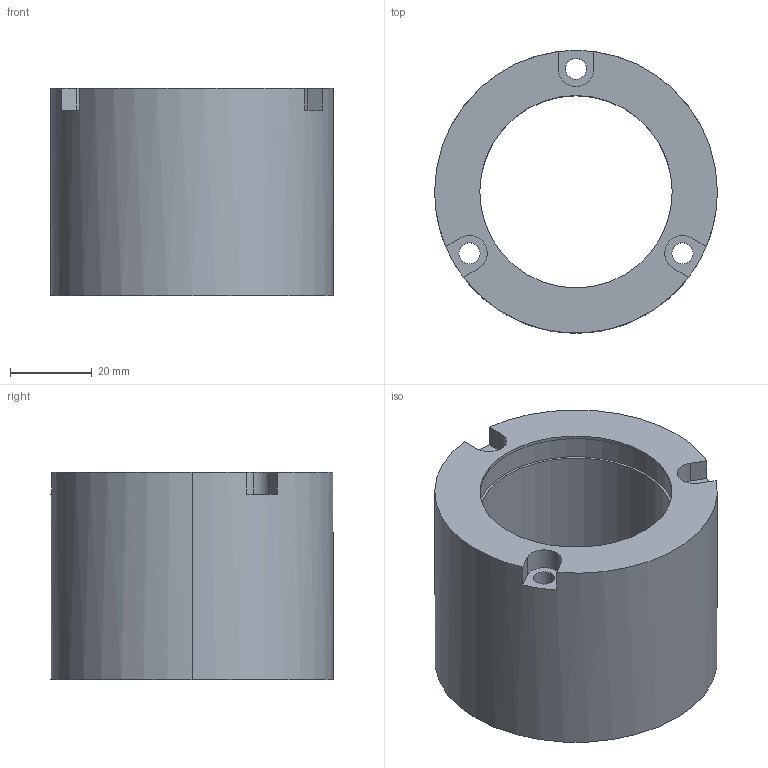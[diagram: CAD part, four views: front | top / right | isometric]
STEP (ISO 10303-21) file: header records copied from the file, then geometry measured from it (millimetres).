
FILE_DESCRIPTION (( 'STEP AP214' ), '1' );
FILE_NAME ('BTQ-38-L.STEP', '2017-03-22T16:12:31', ( '' ), ( '' ), 'SwSTEP 2.0', 'SolidWorks 2017', '' );
FILE_SCHEMA (( 'AUTOMOTIVE_DESIGN' ));
Length unit declared in the file: inch
Products named in the file (1): BTQ-38-L
Bounding box: 69.34 x 69.34 x 50.8 mm (x, y, z)
Volume: 97978.8 mm3; surface area: 25714.4 mm2
Topology: 1 solids, 1 shells, 37 faces, 93 edges, 62 vertices
Faces by surface type: cylinder 22, plane 15
Entity records: 1193 total; most frequent: DIRECTION 219, CARTESIAN_POINT 193, ORIENTED_EDGE 186, EDGE_CURVE 93, AXIS2_PLACEMENT_3D 88, VERTEX_POINT 62, CIRCLE 50, EDGE_LOOP 49
